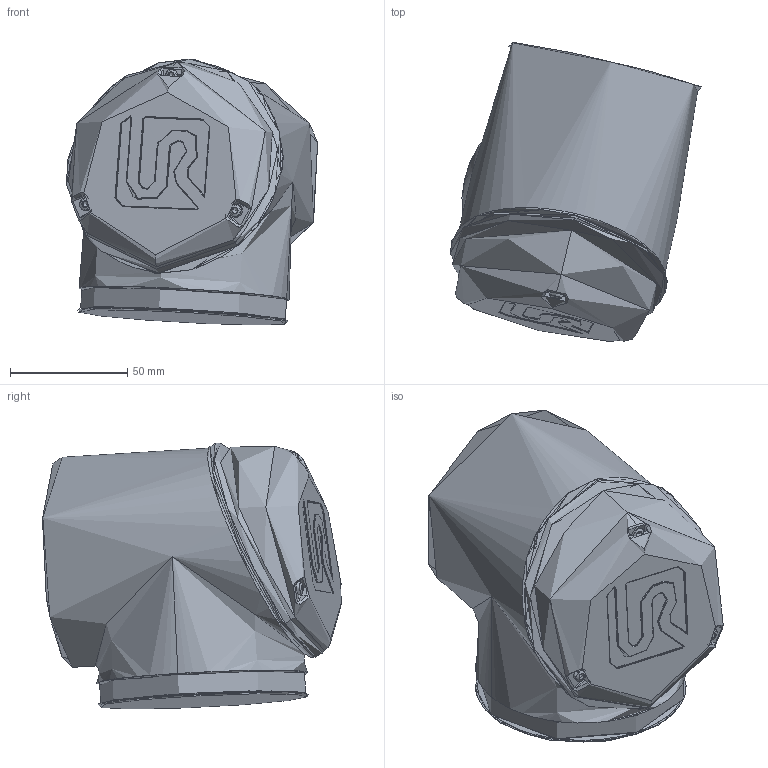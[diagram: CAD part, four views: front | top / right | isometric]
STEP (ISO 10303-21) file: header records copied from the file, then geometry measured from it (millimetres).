
FILE_DESCRIPTION(/* description */ ('STEP AP242 Edition 2','CAx-IF Rec.Pracs.---Representation and Presentation of Product Manufacturing Information (PMI)---4.0---2014-10-13','CAx-IF Rec.Pracs.---3D Tessellated Geometry---0.4---2014-09-14','2;1','CAx-IF Rec.Pracs.---User Defined Attributes---1.5---2016-08-15'),/* implementation_level */ '2;1');
FILE_NAME(/* name */ 'Assembly 1 - Link_5__Imported1',/* time_stamp */ '2026-08-25T13:00:48Z',/* author */ (''),/* organization */ (''),/* preprocessor_version */ 'ST-DEVELOPER v20',/* originating_system */ 'ONSHAPE BY PTC INC, 1.219',/* authorisation */ ' ');
FILE_SCHEMA (('AP242_MANAGED_MODEL_BASED_3D_ENGINEERING_MIM_LF { 1 0 10303 442 3 1 4 }'));
Length unit declared in the file: metre
Products named in the file (1): Link_5__Imported1
Bounding box: 107.33 x 127.78 x 113.63 mm (x, y, z)
Topology: 1 solids, 1 shells, 286 faces, 749 edges, 469 vertices
Faces by surface type: bspline 99, cylinder 93, torus 39, cone 28, plane 19, sphere 8
Full cylindrical faces by diameter (mm): 5.6 x3, 88.195 x2, 90 x3
Entity records: 20216 total; most frequent: CARTESIAN_POINT 14366, ORIENTED_EDGE 1408, EDGE_CURVE 704, B_SPLINE_CURVE_WITH_KNOTS 590, DIRECTION 524, VERTEX_POINT 457, FACE_BOUND 315, EDGE_LOOP 312
